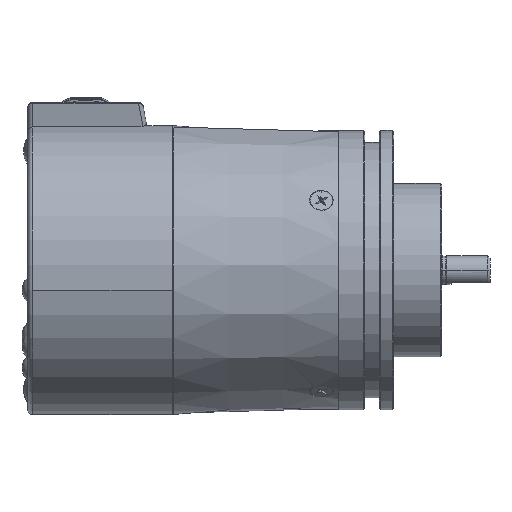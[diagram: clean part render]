
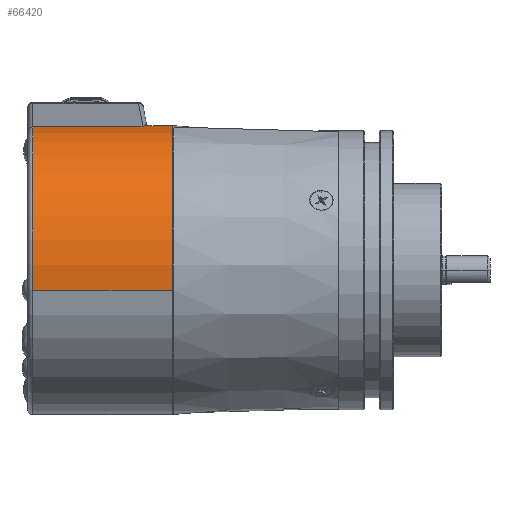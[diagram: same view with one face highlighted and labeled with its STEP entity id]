
A CAD part, front view. The second image highlights one B-rep face of the part: STEP entity #66420.
In plain terms, the highlighted cylindrical face has radius 30 mm (diameter 60 mm), a partial arc.
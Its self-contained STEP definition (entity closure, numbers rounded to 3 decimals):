
#703 = VECTOR ( 'NONE', #18183, 1000. ) ;
#924 = VERTEX_POINT ( 'NONE', #72390 ) ;
#1507 = DIRECTION ( 'NONE',  ( -1., 0., 0. ) ) ;
#4896 = CARTESIAN_POINT ( 'NONE',  ( -55.95, -4.175, 29.708 ) ) ;
#4920 = CIRCLE ( 'NONE', #55213, 30. ) ;
#5974 = VERTEX_POINT ( 'NONE', #87009 ) ;
#6630 = DIRECTION ( 'NONE',  ( -1., 0., 0. ) ) ;
#6805 = CARTESIAN_POINT ( 'NONE',  ( -32.291, -0.286, 30.009 ) ) ;
#10707 =( BOUNDED_CURVE ( )  B_SPLINE_CURVE ( 3, ( #90713, #41478, #55641, #13522 ),
 .UNSPECIFIED., .F., .F. ) 
 B_SPLINE_CURVE_WITH_KNOTS ( ( 4, 4 ),
 ( 0., 1.256 ),
 .UNSPECIFIED. ) 
 CURVE ( )  GEOMETRIC_REPRESENTATION_ITEM ( )  RATIONAL_B_SPLINE_CURVE ( ( 1., 0.873, 0.873, 1. ) ) 
 REPRESENTATION_ITEM ( '' )  );
#11834 = ORIENTED_EDGE ( 'NONE', *, *, #72601, .F. ) ;
#13522 = CARTESIAN_POINT ( 'NONE',  ( -31.781, 5.232, 29.54 ) ) ;
#13872 = CARTESIAN_POINT ( 'NONE',  ( -32.723, -2.624, 29.895 ) ) ;
#18183 = DIRECTION ( 'NONE',  ( -1., 0., 0. ) ) ;
#19615 = CYLINDRICAL_SURFACE ( 'NONE', #30092, 30. ) ;
#20978 = CARTESIAN_POINT ( 'NONE',  ( -33.034, -4.175, 29.708 ) ) ;
#21759 = CARTESIAN_POINT ( 'NONE',  ( -26.95, 0., 0. ) ) ;
#25242 = CARTESIAN_POINT ( 'NONE',  ( -26.95, 29.708, 4.175 ) ) ;
#27349 = VERTEX_POINT ( 'NONE', #31648 ) ;
#28827 = DIRECTION ( 'NONE',  ( 0., 0.99, 0.139 ) ) ;
#30092 = AXIS2_PLACEMENT_3D ( 'NONE', #55519, #6630, #34636 ) ;
#31648 = CARTESIAN_POINT ( 'NONE',  ( -31.781, 5.232, 29.54 ) ) ;
#32834 = ORIENTED_EDGE ( 'NONE', *, *, #67565, .T. ) ;
#34073 = VECTOR ( 'NONE', #66793, 1000. ) ;
#34513 = ORIENTED_EDGE ( 'NONE', *, *, #65302, .T. ) ;
#34636 = DIRECTION ( 'NONE',  ( 0., -0.99, -0.139 ) ) ;
#35707 = CARTESIAN_POINT ( 'NONE',  ( -26.95, 29.708, 4.175 ) ) ;
#38598 = DIRECTION ( 'NONE',  ( 1., 0., 0. ) ) ;
#41478 = CARTESIAN_POINT ( 'NONE',  ( -32.332, 27.835, 17.506 ) ) ;
#41846 = CARTESIAN_POINT ( 'NONE',  ( -31.801, 3.656, 29.787 ) ) ;
#43257 = VERTEX_POINT ( 'NONE', #56548 ) ;
#45009 = VECTOR ( 'NONE', #1507, 1000. ) ;
#48876 = CARTESIAN_POINT ( 'NONE',  ( -32.048, 1.283, 29.983 ) ) ;
#52726 = LINE ( 'NONE', #87723, #34073 ) ;
#53348 = CIRCLE ( 'NONE', #61657, 30. ) ;
#55213 = AXIS2_PLACEMENT_3D ( 'NONE', #80765, #38598, #87782 ) ;
#55519 = CARTESIAN_POINT ( 'NONE',  ( -26.95, 0., 0. ) ) ;
#55641 = CARTESIAN_POINT ( 'NONE',  ( -32.121, 18.487, 27.193 ) ) ;
#56023 = CARTESIAN_POINT ( 'NONE',  ( -32.429, -1.067, 29.991 ) ) ;
#56376 = VERTEX_POINT ( 'NONE', #35707 ) ;
#56548 = CARTESIAN_POINT ( 'NONE',  ( -26.95, -29.708, -4.175 ) ) ;
#56580 = VERTEX_POINT ( 'NONE', #4896 ) ;
#58060 = ORIENTED_EDGE ( 'NONE', *, *, #87432, .T. ) ;
#58338 = EDGE_CURVE ( 'NONE', #43257, #924, #82496, .T. ) ;
#61657 = AXIS2_PLACEMENT_3D ( 'NONE', #21759, #70905, #28827 ) ;
#63071 = CARTESIAN_POINT ( 'NONE',  ( -32.878, -3.401, 29.817 ) ) ;
#64523 = CARTESIAN_POINT ( 'NONE',  ( -26.95, -29.708, -4.175 ) ) ;
#65302 = EDGE_CURVE ( 'NONE', #5974, #56580, #52726, .T. ) ;
#65564 = EDGE_CURVE ( 'NONE', #27349, #5974, #89340, .T. ) ;
#66420 = ADVANCED_FACE ( 'NONE', ( #75756 ), #19615, .T. ) ;
#66434 = ORIENTED_EDGE ( 'NONE', *, *, #72781, .T. ) ;
#66793 = DIRECTION ( 'NONE',  ( -1., 0., 0. ) ) ;
#67565 = EDGE_CURVE ( 'NONE', #56376, #71880, #75578, .T. ) ;
#69818 = CARTESIAN_POINT ( 'NONE',  ( -31.76, 4.445, 29.68 ) ) ;
#70905 = DIRECTION ( 'NONE',  ( 1., 0., 0. ) ) ;
#71880 = VERTEX_POINT ( 'NONE', #87954 ) ;
#72282 = ORIENTED_EDGE ( 'NONE', *, *, #65564, .T. ) ;
#72390 = CARTESIAN_POINT ( 'NONE',  ( -55.95, -29.708, -4.175 ) ) ;
#72601 = EDGE_CURVE ( 'NONE', #56376, #43257, #53348, .T. ) ;
#72781 = EDGE_CURVE ( 'NONE', #56580, #924, #4920, .T. ) ;
#75578 = LINE ( 'NONE', #25242, #703 ) ;
#75756 = FACE_OUTER_BOUND ( 'NONE', #76263, .T. ) ;
#76263 = EDGE_LOOP ( 'NONE', ( #11834, #32834, #58060, #72282, #34513, #66434, #84479 ) ) ;
#76652 = CARTESIAN_POINT ( 'NONE',  ( -31.781, 5.232, 29.54 ) ) ;
#80765 = CARTESIAN_POINT ( 'NONE',  ( -55.95, 0., 0. ) ) ;
#82496 = LINE ( 'NONE', #64523, #45009 ) ;
#84479 = ORIENTED_EDGE ( 'NONE', *, *, #58338, .F. ) ;
#87009 = CARTESIAN_POINT ( 'NONE',  ( -33.034, -4.175, 29.708 ) ) ;
#87432 = EDGE_CURVE ( 'NONE', #71880, #27349, #10707, .T. ) ;
#87723 = CARTESIAN_POINT ( 'NONE',  ( -32.95, -4.175, 29.708 ) ) ;
#87782 = DIRECTION ( 'NONE',  ( 0., 0.99, 0.139 ) ) ;
#87954 = CARTESIAN_POINT ( 'NONE',  ( -32.332, 29.708, 4.175 ) ) ;
#89340 = B_SPLINE_CURVE_WITH_KNOTS ( 'NONE', 3,
 ( #76652, #69818, #41846, #91067, #48876, #6805, #56023, #13872, #63071, #20978 ),
 .UNSPECIFIED., .F., .F.,
 ( 4, 2, 2, 2, 4 ),
 ( 0., 0.002, 0.005, 0.007, 0.01 ),
 .UNSPECIFIED. ) ;
#90713 = CARTESIAN_POINT ( 'NONE',  ( -32.332, 29.708, 4.175 ) ) ;
#91067 = CARTESIAN_POINT ( 'NONE',  ( -31.944, 2.074, 29.939 ) ) ;
